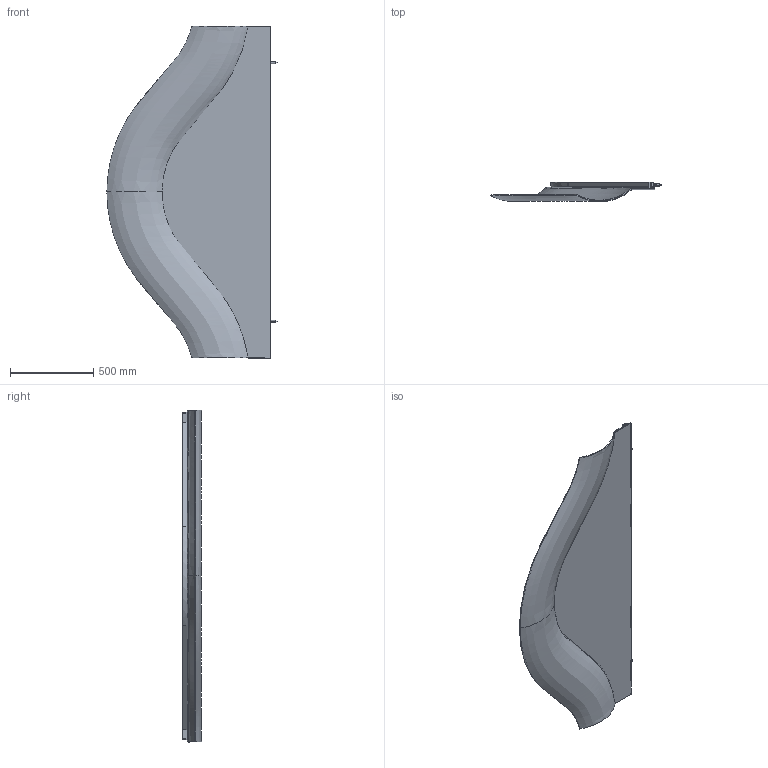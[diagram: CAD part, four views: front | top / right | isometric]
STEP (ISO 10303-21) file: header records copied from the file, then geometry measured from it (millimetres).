
FILE_DESCRIPTION(/* description */ (''),/* implementation_level */ '2;1');
FILE_NAME(/* name */ 'MGS98',/* time_stamp */ '2026-06-09T16:50:29+02:00',/* author */ (''),/* organization */ (''),/* preprocessor_version */ 'ST-DEVELOPER v16.5',/* originating_system */ '',/* authorisation */ '');
FILE_SCHEMA (('AUTOMOTIVE_DESIGN'));
Length unit declared in the file: millimetre
Products named in the file (1): Document
Bounding box: 1025.3 x 115.53 x 2000 mm (x, y, z)
Volume: 14495287.2 mm3; surface area: 6057959.4 mm2
Topology: 11 solids, 11 shells, 218 faces, 594 edges, 396 vertices
Faces by surface type: bspline 129, plane 89
Entity records: 36357 total; most frequent: CARTESIAN_POINT 32760, ORIENTED_EDGE 1180, EDGE_CURVE 590, VERTEX_POINT 396, B_SPLINE_CURVE_WITH_KNOTS 356, EDGE_LOOP 256, ADVANCED_FACE 218, FACE_OUTER_BOUND 218
